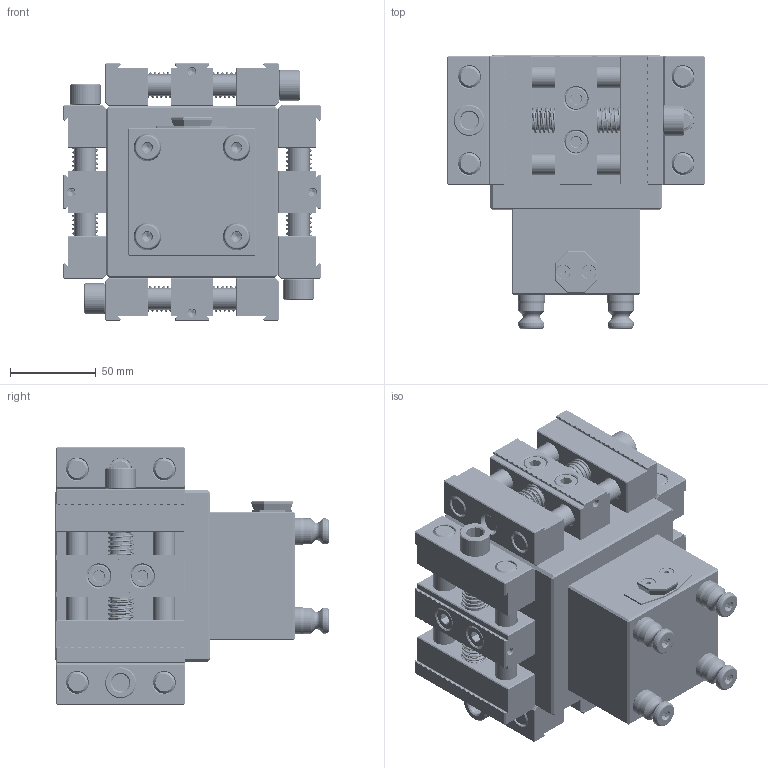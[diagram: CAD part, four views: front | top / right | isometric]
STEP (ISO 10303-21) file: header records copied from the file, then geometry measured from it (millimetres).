
FILE_DESCRIPTION (( 'STEP AP203' ), '1' );
FILE_NAME ('A52-PV3XT4-4A.STEP', '2022-02-09T16:38:09', ( '' ), ( '' ), 'SwSTEP 2.0', 'SolidWorks 2021', '' );
FILE_SCHEMA (( 'CONFIG_CONTROL_DESIGN' ));
Length unit declared in the file: inch
Products named in the file (20): A52-PV3XT4-4A; 0500X4000.DP_0500X4000.DP; 91390A145_ALLOY STEEL CUP POINT SET SCREW_91390A145; PV3X-2A_FINISHED PART; AS-C; M12X100.SHCS_91290A646; PS16F; PV3X-1_FINISHED PART ; M12X080.SHCS_91290A646; PS16F_HARD TURN; PV3X-4A_BOM; PV3X-3A_FINISHED PART; AS-TP; M06X010.DP_91595A438; 91595A100_METRIC ALLOY STEEL DOWEL PIN_91595A100; AS-S; 91263A829_ZINC-PLATED ALLOY STEEL HEX DRIVE FLAT HEAD SCREW_91263A829; LC045H10M_1.16374803; M8X025_91290A432; A52-PV3XT4-1
Assembly tree (31 placements, depth 3):
  A52-PV3XT4-4A
    A52-PV3XT4-1
    AS-TP
      AS-C
      AS-S
      91263A829_ZINC-PLATED ALLOY STEEL HEX DRIVE FLAT HEAD SCREW_91263A829  x2
      91595A100_METRIC ALLOY STEEL DOWEL PIN_91595A100  x2
    PV3X-4A_BOM  x4
      PV3X-1_FINISHED PART 
      PV3X-2A_FINISHED PART
      PV3X-3A_FINISHED PART
      0500X4000.DP_0500X4000.DP
      M12X080.SHCS_91290A646
      M12X100.SHCS_91290A646
      LC045H10M_1.16374803
      M8X025_91290A432
      M06X010.DP_91595A438
    PS16F  x4
      PS16F_HARD TURN
      91390A145_ALLOY STEEL CUP POINT SET SCREW_91390A145
Bounding box: 149.99 x 159.56 x 149.99 mm (x, y, z)
Volume: 1790217.4 mm3; surface area: 336731.6 mm2
Topology: 67 solids, 67 shells, 4359 faces, 11228 edges, 7044 vertices
Faces by surface type: cylinder 1990, plane 1441, cone 736, torus 80, bspline 72, sphere 40
Entity records: 55730 total; most frequent: CARTESIAN_POINT 25756, ORIENTED_EDGE 6194, DIRECTION 5395, EDGE_CURVE 3097, AXIS2_PLACEMENT_3D 1962, VERTEX_POINT 1948, VECTOR 1471, LINE 1471
